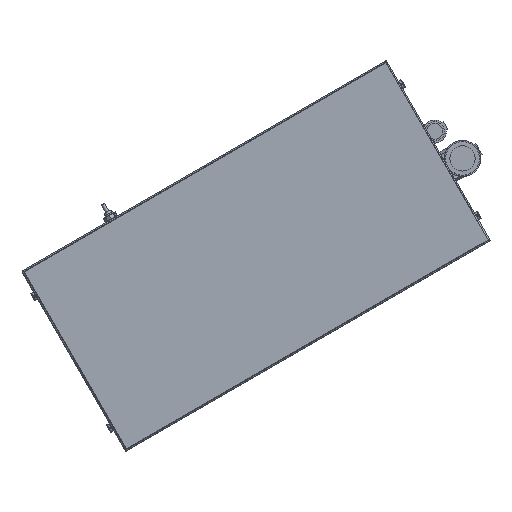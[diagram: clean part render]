
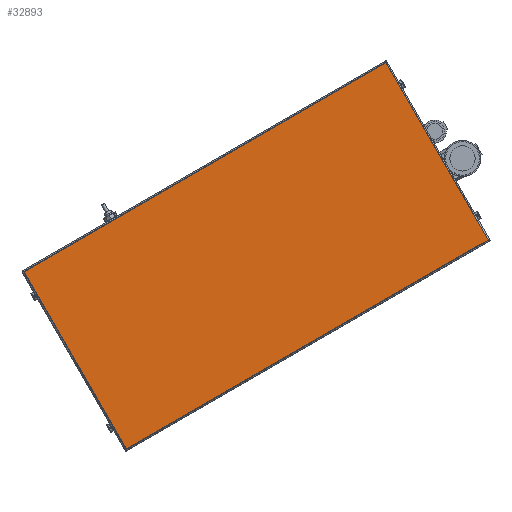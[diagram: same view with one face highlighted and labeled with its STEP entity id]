
A CAD part, top view. The second image highlights one B-rep face of the part: STEP entity #32893.
In plain terms, the highlighted planar face has unit normal (0, 0, 1).
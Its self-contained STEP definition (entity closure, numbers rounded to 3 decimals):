
#1703 = DIRECTION ( 'NONE',  ( -0.5, 0.866, 0. ) ) ;
#2109 = AXIS2_PLACEMENT_3D ( 'NONE', #31557, #42151, #20991 ) ;
#6016 = ORIENTED_EDGE ( 'NONE', *, *, #45972, .T. ) ;
#6761 = VECTOR ( 'NONE', #24943, 1000. ) ;
#10354 = CARTESIAN_POINT ( 'NONE',  ( -165.631, 44.381, 966.5 ) ) ;
#10366 = EDGE_CURVE ( 'NONE', #12279, #38715, #39214, .T. ) ;
#10654 = EDGE_CURVE ( 'NONE', #38715, #37715, #15294, .T. ) ;
#12279 = VERTEX_POINT ( 'NONE', #44680 ) ;
#14051 = CARTESIAN_POINT ( 'NONE',  ( -43.381, -167.363, 966.5 ) ) ;
#14984 = ORIENTED_EDGE ( 'NONE', *, *, #46030, .T. ) ;
#15029 = VERTEX_POINT ( 'NONE', #39508 ) ;
#15294 = LINE ( 'NONE', #14051, #6761 ) ;
#17854 = LINE ( 'NONE', #19652, #27403 ) ;
#19007 = CARTESIAN_POINT ( 'NONE',  ( -167.363, 43.381, 966.5 ) ) ;
#19652 = CARTESIAN_POINT ( 'NONE',  ( 386.467, 83.119, 966.5 ) ) ;
#20444 = VECTOR ( 'NONE', #43807, 1000. ) ;
#20991 = DIRECTION ( 'NONE',  ( -0.5, 0.866, 0. ) ) ;
#23160 = CARTESIAN_POINT ( 'NONE',  ( -44.381, -165.631, 966.5 ) ) ;
#24642 = FACE_OUTER_BOUND ( 'NONE', #38728, .T. ) ;
#24943 = DIRECTION ( 'NONE',  ( 0.5, -0.866, 0. ) ) ;
#25178 = LINE ( 'NONE', #26995, #34570 ) ;
#26995 = CARTESIAN_POINT ( 'NONE',  ( 262.485, 293.863, 966.5 ) ) ;
#27403 = VECTOR ( 'NONE', #44410, 1000. ) ;
#31557 = CARTESIAN_POINT ( 'NONE',  ( 263.668, 292.814, 966.5 ) ) ;
#32454 = ORIENTED_EDGE ( 'NONE', *, *, #10654, .T. ) ;
#32893 = ADVANCED_FACE ( 'NONE', ( #24642 ), #38593, .T. ) ;
#34570 = VECTOR ( 'NONE', #1703, 1000. ) ;
#37715 = VERTEX_POINT ( 'NONE', #23160 ) ;
#38593 = PLANE ( 'NONE',  #2109 ) ;
#38715 = VERTEX_POINT ( 'NONE', #10354 ) ;
#38728 = EDGE_LOOP ( 'NONE', ( #32454, #6016, #14984, #42391 ) ) ;
#39214 = LINE ( 'NONE', #19007, #20444 ) ;
#39508 = CARTESIAN_POINT ( 'NONE',  ( 384.735, 82.119, 966.5 ) ) ;
#42151 = DIRECTION ( 'NONE',  ( 0., 0., 1. ) ) ;
#42391 = ORIENTED_EDGE ( 'NONE', *, *, #10366, .T. ) ;
#43807 = DIRECTION ( 'NONE',  ( -0.866, -0.5, 0. ) ) ;
#44410 = DIRECTION ( 'NONE',  ( 0.866, 0.5, 0. ) ) ;
#44680 = CARTESIAN_POINT ( 'NONE',  ( 263.485, 292.131, 966.5 ) ) ;
#45972 = EDGE_CURVE ( 'NONE', #37715, #15029, #17854, .T. ) ;
#46030 = EDGE_CURVE ( 'NONE', #15029, #12279, #25178, .T. ) ;
